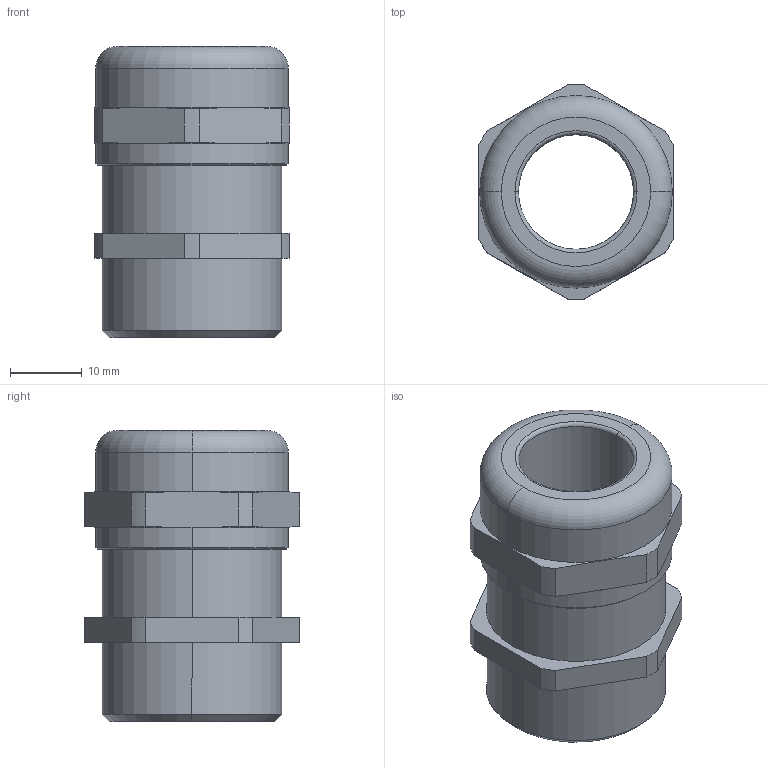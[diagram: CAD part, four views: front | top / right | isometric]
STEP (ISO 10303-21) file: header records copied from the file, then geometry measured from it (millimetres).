
FILE_DESCRIPTION (( 'STEP AP203' ), '1' );
FILE_NAME ('50.625 M-L.STEP', '2005-10-05T06:59:35', ( ' ' ), ( '' ), 'SwSTEP 2.0', 'SolidWorks 2005143', '' );
FILE_SCHEMA (( 'CONFIG_CONTROL_DESIGN' ));
Length unit declared in the file: millimetre
Products named in the file (1): 50.625 M-L
Bounding box: 27 x 29.99 x 40.5 mm (x, y, z)
Volume: 13537.5 mm3; surface area: 6329.7 mm2
Topology: 1 solids, 1 shells, 88 faces, 228 edges, 148 vertices
Faces by surface type: plane 54, cylinder 22, cone 8, torus 4
Entity records: 2777 total; most frequent: CARTESIAN_POINT 521, ORIENTED_EDGE 456, DIRECTION 446, EDGE_CURVE 228, LINE 156, VECTOR 156, VERTEX_POINT 148, AXIS2_PLACEMENT_3D 145
